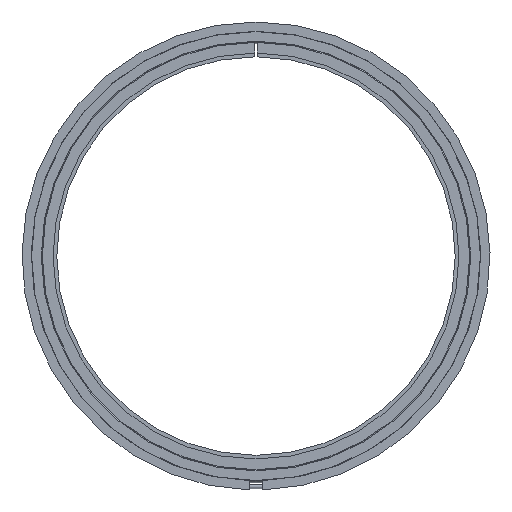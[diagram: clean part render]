
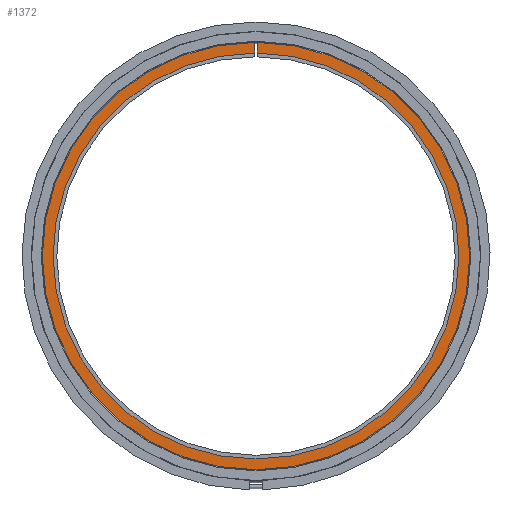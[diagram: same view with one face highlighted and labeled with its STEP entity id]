
A CAD part, left-side view. The second image highlights one B-rep face of the part: STEP entity #1372.
In plain terms, the highlighted planar face has unit normal (-1, 0, 0).
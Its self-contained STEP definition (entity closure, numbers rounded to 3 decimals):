
#274=DIRECTION('',(0.,0.,-1.));
#275=VECTOR('',#274,4.044);
#276=CARTESIAN_POINT('',(2.05,0.5,80.442));
#277=LINE('',#276,#275);
#449=DIRECTION('',(0.,0.,1.));
#450=VECTOR('',#449,4.044);
#451=CARTESIAN_POINT('',(2.05,-0.5,76.398));
#452=LINE('',#451,#450);
#488=CARTESIAN_POINT('',(2.05,0.,0.));
#489=DIRECTION('',(-1.,0.,0.));
#490=DIRECTION('',(0.,0.006,1.));
#491=AXIS2_PLACEMENT_3D('',#488,#489,#490);
#493=CARTESIAN_POINT('',(2.05,0.,0.));
#494=DIRECTION('',(1.,0.,0.));
#495=DIRECTION('',(0.,0.,-1.));
#496=AXIS2_PLACEMENT_3D('',#493,#494,#495);
#498=CARTESIAN_POINT('',(2.05,0.,0.));
#499=DIRECTION('',(1.,0.,0.));
#500=DIRECTION('',(0.,-0.007,1.));
#501=AXIS2_PLACEMENT_3D('',#498,#499,#500);
#503=CARTESIAN_POINT('',(2.05,0.,0.));
#504=DIRECTION('',(-1.,0.,0.));
#505=DIRECTION('',(0.,0.,-1.));
#506=AXIS2_PLACEMENT_3D('',#503,#504,#505);
#631=CARTESIAN_POINT('',(2.05,0.,-76.4));
#632=CARTESIAN_POINT('',(2.05,0.5,76.398));
#633=VERTEX_POINT('',#631);
#634=VERTEX_POINT('',#632);
#635=CARTESIAN_POINT('',(2.05,-0.5,76.398));
#636=VERTEX_POINT('',#635);
#637=CARTESIAN_POINT('',(2.05,0.5,80.442));
#638=CARTESIAN_POINT('',(2.05,0.,-80.444));
#639=VERTEX_POINT('',#637);
#640=VERTEX_POINT('',#638);
#641=CARTESIAN_POINT('',(2.05,-0.5,80.442));
#642=VERTEX_POINT('',#641);
#1357=CARTESIAN_POINT('',(2.05,76.4,0.));
#1358=DIRECTION('',(-1.,0.,0.));
#1359=DIRECTION('',(0.,0.,1.));
#1360=AXIS2_PLACEMENT_3D('',#1357,#1358,#1359);
#1361=PLANE('',#1360);
#1362=ORIENTED_EDGE('',*,*,#989,.F.);
#1363=ORIENTED_EDGE('',*,*,#1032,.T.);
#1365=ORIENTED_EDGE('',*,*,#1364,.F.);
#1367=ORIENTED_EDGE('',*,*,#1366,.F.);
#1368=ORIENTED_EDGE('',*,*,#1331,.T.);
#1369=ORIENTED_EDGE('',*,*,#991,.F.);
#1370=EDGE_LOOP('',(#1362,#1363,#1365,#1367,#1368,#1369));
#1371=FACE_OUTER_BOUND('',#1370,.F.);
#492=CIRCLE('',#491,80.444);
#497=CIRCLE('',#496,76.4);
#502=CIRCLE('',#501,76.4);
#507=CIRCLE('',#506,80.444);
#989=EDGE_CURVE('',#639,#640,#492,.T.);
#991=EDGE_CURVE('',#640,#642,#507,.T.);
#1032=EDGE_CURVE('',#639,#634,#277,.T.);
#1331=EDGE_CURVE('',#636,#642,#452,.T.);
#1364=EDGE_CURVE('',#633,#634,#497,.T.);
#1366=EDGE_CURVE('',#636,#633,#502,.T.);
#1372=ADVANCED_FACE('',(#1371),#1361,.T.);
